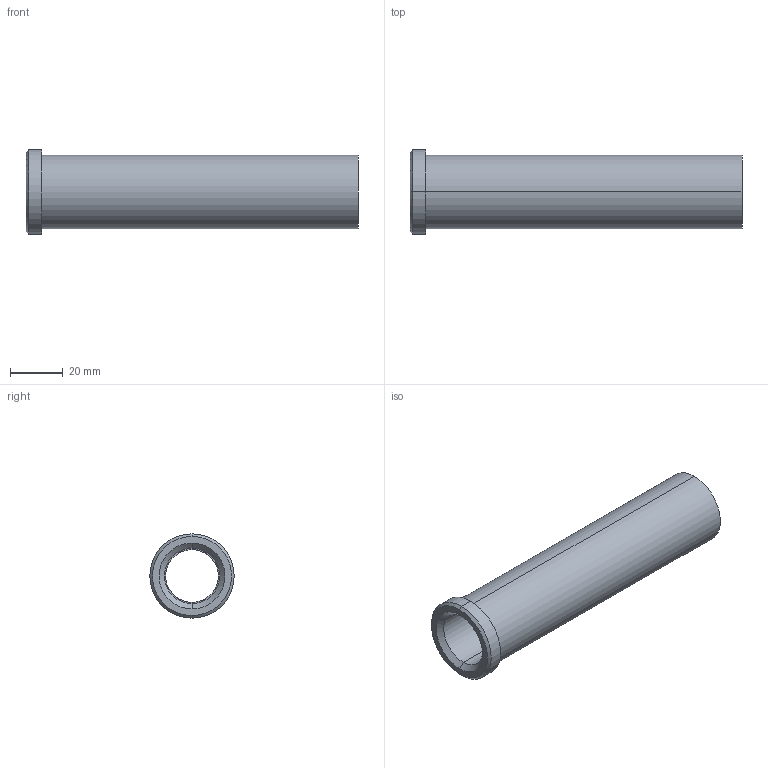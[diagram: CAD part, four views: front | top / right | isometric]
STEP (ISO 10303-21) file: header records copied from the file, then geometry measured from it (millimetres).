
FILE_DESCRIPTION(('CATIA V5 STEP Exchange'),'2;1');
FILE_NAME('C:\Users\Utente\Desktop\IO LAVORO\3D X SITO CF\X SITO\PLASTICA\353\353-20X126.stp','2021-05-11T14:54:07+00:00',('none'),('none'),'CATIA Version 5 Release 20 GA (IN-10)','CATIA V5 STEP AP203','none');
FILE_SCHEMA(('CONFIG_CONTROL_DESIGN'));
Length unit declared in the file: millimetre
Products named in the file (1): 353-20X126
Bounding box: 126 x 32 x 32 mm (x, y, z)
Volume: 36141.5 mm3; surface area: 20154.4 mm2
Topology: 1 solids, 1 shells, 18 faces, 58 edges, 44 vertices
Faces by surface type: cylinder 8, plane 4, cone 4, torus 2
Entity records: 840 total; most frequent: CARTESIAN_POINT 289, ORIENTED_EDGE 116, DIRECTION 82, EDGE_CURVE 58, AXIS2_PLACEMENT_3D 53, VERTEX_POINT 44, CIRCLE 34, EDGE_LOOP 22
